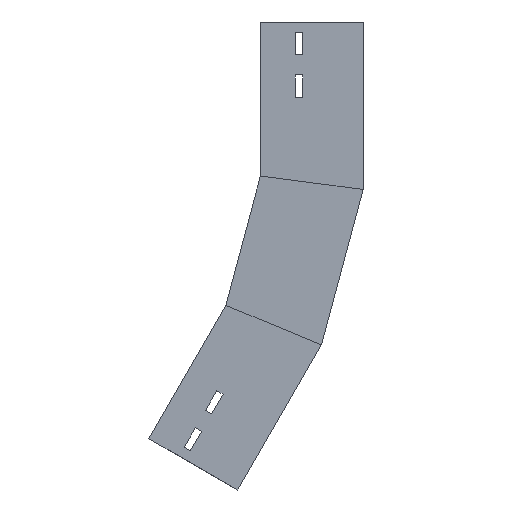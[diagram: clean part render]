
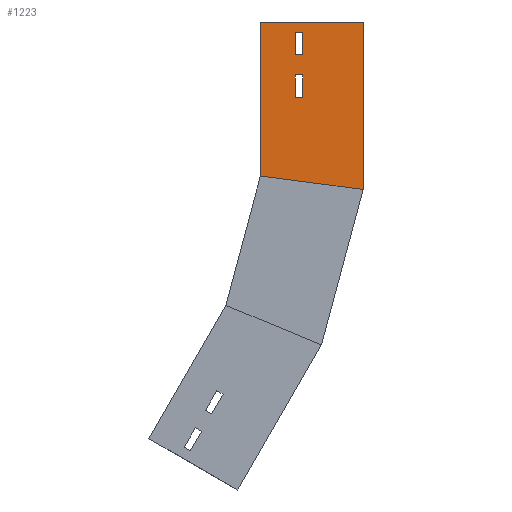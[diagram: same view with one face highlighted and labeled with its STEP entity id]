
A CAD part, left-side view. The second image highlights one B-rep face of the part: STEP entity #1223.
In plain terms, the highlighted planar face has unit normal (-1, 0, 0) as drawn and (1, 0, 0) by its records, which use the part's own axes.
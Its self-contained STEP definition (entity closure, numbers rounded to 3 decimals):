
#39 = VECTOR ( 'NONE', #46, 1000. ) ;
#46 = DIRECTION ( 'NONE',  ( 0., 0.5, -0.866 ) ) ;
#80 = ORIENTED_EDGE ( 'NONE', *, *, #1467, .T. ) ;
#81 = VERTEX_POINT ( 'NONE', #1381 ) ;
#90 = ORIENTED_EDGE ( 'NONE', *, *, #396, .F. ) ;
#132 = DIRECTION ( 'NONE',  ( 0., -0.5, 0.866 ) ) ;
#144 = VERTEX_POINT ( 'NONE', #698 ) ;
#146 = LINE ( 'NONE', #643, #357 ) ;
#166 = FACE_OUTER_BOUND ( 'NONE', #740, .T. ) ;
#168 = DIRECTION ( 'NONE',  ( 0., -0.5, 0.866 ) ) ;
#184 = CARTESIAN_POINT ( 'NONE',  ( 0., 174.271, -413.909 ) ) ;
#190 = ORIENTED_EDGE ( 'NONE', *, *, #1165, .T. ) ;
#227 = CARTESIAN_POINT ( 'NONE',  ( 0., 142.436, -358.769 ) ) ;
#238 = EDGE_CURVE ( 'NONE', #980, #81, #370, .T. ) ;
#254 = VECTOR ( 'NONE', #389, 1000. ) ;
#266 = ORIENTED_EDGE ( 'NONE', *, *, #374, .F. ) ;
#293 = DIRECTION ( 'NONE',  ( 0., -0.924, -0.383 ) ) ;
#316 = LINE ( 'NONE', #781, #1228 ) ;
#352 = VECTOR ( 'NONE', #948, 1000. ) ;
#356 = LINE ( 'NONE', #609, #946 ) ;
#357 = VECTOR ( 'NONE', #293, 1000. ) ;
#370 = LINE ( 'NONE', #388, #352 ) ;
#374 = EDGE_CURVE ( 'NONE', #768, #567, #1213, .T. ) ;
#388 = CARTESIAN_POINT ( 'NONE',  ( 0., 153.436, -377.821 ) ) ;
#389 = DIRECTION ( 'NONE',  ( 0., 0.866, 0.5 ) ) ;
#394 = CARTESIAN_POINT ( 'NONE',  ( 0., 208.634, -405.426 ) ) ;
#395 = VERTEX_POINT ( 'NONE', #1100 ) ;
#396 = EDGE_CURVE ( 'NONE', #749, #980, #1457, .T. ) ;
#449 = ORIENTED_EDGE ( 'NONE', *, *, #238, .F. ) ;
#463 = VERTEX_POINT ( 'NONE', #394 ) ;
#493 = VERTEX_POINT ( 'NONE', #541 ) ;
#495 = FACE_BOUND ( 'NONE', #607, .T. ) ;
#531 = DIRECTION ( 'NONE',  ( 0., 0.5, -0.866 ) ) ;
#533 = DIRECTION ( 'NONE',  ( 0., -0.866, -0.5 ) ) ;
#541 = CARTESIAN_POINT ( 'NONE',  ( 0., 174.271, -413.909 ) ) ;
#561 = ORIENTED_EDGE ( 'NONE', *, *, #1485, .F. ) ;
#567 = VERTEX_POINT ( 'NONE', #573 ) ;
#573 = CARTESIAN_POINT ( 'NONE',  ( 0., 157.209, -398.356 ) ) ;
#607 = EDGE_LOOP ( 'NONE', ( #1389, #449, #90, #1048 ) ) ;
#609 = CARTESIAN_POINT ( 'NONE',  ( 0., 127.134, -264.264 ) ) ;
#623 = CARTESIAN_POINT ( 'NONE',  ( 0., 122.031, -455.426 ) ) ;
#636 = CARTESIAN_POINT ( 'NONE',  ( 0., 163.271, -394.856 ) ) ;
#643 = CARTESIAN_POINT ( 'NONE',  ( 0., 59.416, -306.442 ) ) ;
#654 = CARTESIAN_POINT ( 'NONE',  ( 0., 122.031, -455.426 ) ) ;
#698 = CARTESIAN_POINT ( 'NONE',  ( 0., 142.436, -358.769 ) ) ;
#700 = ORIENTED_EDGE ( 'NONE', *, *, #704, .F. ) ;
#704 = EDGE_CURVE ( 'NONE', #395, #463, #356, .T. ) ;
#713 = CARTESIAN_POINT ( 'NONE',  ( 0., 174.271, -413.909 ) ) ;
#732 = EDGE_CURVE ( 'NONE', #493, #768, #877, .T. ) ;
#740 = EDGE_LOOP ( 'NONE', ( #190, #80, #1454, #700 ) ) ;
#742 = VECTOR ( 'NONE', #1341, 1000. ) ;
#743 = DIRECTION ( 'NONE',  ( 0., 0., 1. ) ) ;
#749 = VERTEX_POINT ( 'NONE', #1112 ) ;
#754 = ORIENTED_EDGE ( 'NONE', *, *, #1310, .F. ) ;
#756 = VERTEX_POINT ( 'NONE', #1203 ) ;
#765 = DIRECTION ( 'NONE',  ( 0., 0.866, 0.5 ) ) ;
#766 = CARTESIAN_POINT ( 'NONE',  ( 0., 168.209, -417.409 ) ) ;
#768 = VERTEX_POINT ( 'NONE', #1078 ) ;
#781 = CARTESIAN_POINT ( 'NONE',  ( 0., 168.209, -417.409 ) ) ;
#831 = CARTESIAN_POINT ( 'NONE',  ( 0., 153.436, -377.821 ) ) ;
#846 = LINE ( 'NONE', #969, #39 ) ;
#854 = VERTEX_POINT ( 'NONE', #766 ) ;
#873 = CARTESIAN_POINT ( 'NONE',  ( 0., 147.374, -381.321 ) ) ;
#877 = LINE ( 'NONE', #184, #1016 ) ;
#887 = DIRECTION ( 'NONE',  ( 0., -0.866, -0.5 ) ) ;
#933 = VECTOR ( 'NONE', #533, 1000. ) ;
#946 = VECTOR ( 'NONE', #1190, 1000. ) ;
#948 = DIRECTION ( 'NONE',  ( 0., 0.866, 0.5 ) ) ;
#966 = CARTESIAN_POINT ( 'NONE',  ( 0., 40.531, -314.264 ) ) ;
#969 = CARTESIAN_POINT ( 'NONE',  ( 0., 40.531, -314.264 ) ) ;
#970 = ORIENTED_EDGE ( 'NONE', *, *, #732, .F. ) ;
#976 = EDGE_CURVE ( 'NONE', #144, #749, #1260, .T. ) ;
#980 = VERTEX_POINT ( 'NONE', #1299 ) ;
#981 = LINE ( 'NONE', #623, #1394 ) ;
#1001 = EDGE_LOOP ( 'NONE', ( #970, #561, #754, #266 ) ) ;
#1016 = VECTOR ( 'NONE', #168, 1000. ) ;
#1035 = VECTOR ( 'NONE', #132, 1000. ) ;
#1048 = ORIENTED_EDGE ( 'NONE', *, *, #976, .F. ) ;
#1078 = CARTESIAN_POINT ( 'NONE',  ( 0., 163.271, -394.856 ) ) ;
#1100 = CARTESIAN_POINT ( 'NONE',  ( 0., 133.716, -275.665 ) ) ;
#1112 = CARTESIAN_POINT ( 'NONE',  ( 0., 136.374, -362.269 ) ) ;
#1130 = VECTOR ( 'NONE', #887, 1000. ) ;
#1153 = EDGE_CURVE ( 'NONE', #1237, #463, #981, .T. ) ;
#1165 = EDGE_CURVE ( 'NONE', #395, #756, #146, .T. ) ;
#1190 = DIRECTION ( 'NONE',  ( 0., 0.5, -0.866 ) ) ;
#1203 = CARTESIAN_POINT ( 'NONE',  ( 0., 40.531, -314.264 ) ) ;
#1213 = LINE ( 'NONE', #636, #933 ) ;
#1223 = ADVANCED_FACE ( 'NONE', ( #1338, #495, #166 ), #1328, .F. ) ;
#1228 = VECTOR ( 'NONE', #531, 1000. ) ;
#1237 = VERTEX_POINT ( 'NONE', #654 ) ;
#1260 = LINE ( 'NONE', #227, #1130 ) ;
#1299 = CARTESIAN_POINT ( 'NONE',  ( 0., 147.374, -381.321 ) ) ;
#1310 = EDGE_CURVE ( 'NONE', #567, #854, #316, .T. ) ;
#1319 = AXIS2_PLACEMENT_3D ( 'NONE', #966, #1430, #743 ) ;
#1328 = PLANE ( 'NONE',  #1319 ) ;
#1338 = FACE_BOUND ( 'NONE', #1001, .T. ) ;
#1341 = DIRECTION ( 'NONE',  ( 0., 0.5, -0.866 ) ) ;
#1381 = CARTESIAN_POINT ( 'NONE',  ( 0., 153.436, -377.821 ) ) ;
#1389 = ORIENTED_EDGE ( 'NONE', *, *, #1403, .F. ) ;
#1394 = VECTOR ( 'NONE', #765, 1000. ) ;
#1401 = LINE ( 'NONE', #831, #1035 ) ;
#1403 = EDGE_CURVE ( 'NONE', #81, #144, #1401, .T. ) ;
#1427 = LINE ( 'NONE', #713, #254 ) ;
#1430 = DIRECTION ( 'NONE',  ( -1., 0., 0. ) ) ;
#1454 = ORIENTED_EDGE ( 'NONE', *, *, #1153, .T. ) ;
#1457 = LINE ( 'NONE', #873, #742 ) ;
#1467 = EDGE_CURVE ( 'NONE', #756, #1237, #846, .T. ) ;
#1485 = EDGE_CURVE ( 'NONE', #854, #493, #1427, .T. ) ;
